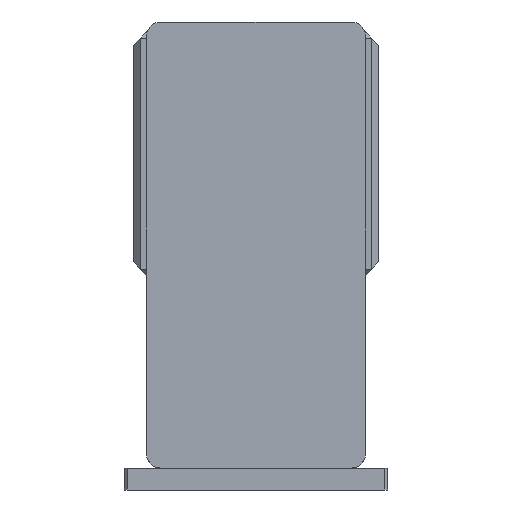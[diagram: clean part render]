
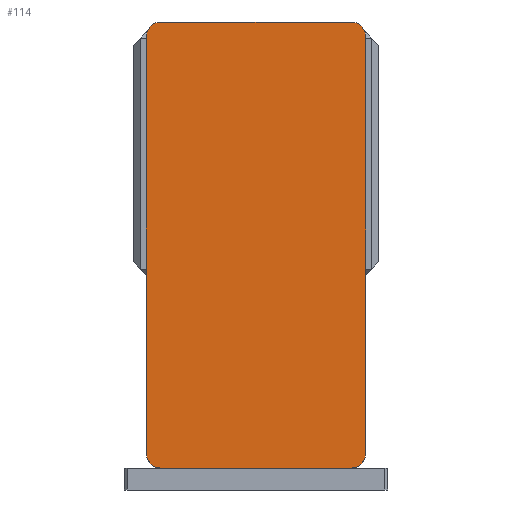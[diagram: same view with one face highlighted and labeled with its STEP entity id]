
A CAD part, left-side view. The second image highlights one B-rep face of the part: STEP entity #114.
In plain terms, the highlighted planar face has unit normal (-1, 0, 0) as drawn and (0, 0, 1) by its records, which use the part's own axes.
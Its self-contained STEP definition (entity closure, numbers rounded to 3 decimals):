
#114 = ADVANCED_FACE ( 'NONE', ( #8588 ), #7084, .T. ) ;
#267 = CARTESIAN_POINT ( 'NONE',  ( 65., 142.5, 105. ) ) ;
#379 = DIRECTION ( 'NONE',  ( -1., 0., 0. ) ) ;
#389 = ORIENTED_EDGE ( 'NONE', *, *, #3264, .T. ) ;
#770 = VERTEX_POINT ( 'NONE', #1549 ) ;
#798 = ORIENTED_EDGE ( 'NONE', *, *, #7708, .T. ) ;
#1008 = AXIS2_PLACEMENT_3D ( 'NONE', #3038, #9034, #3867 ) ;
#1145 = DIRECTION ( 'NONE',  ( 1., 0., 0. ) ) ;
#1463 = ORIENTED_EDGE ( 'NONE', *, *, #3747, .T. ) ;
#1549 = CARTESIAN_POINT ( 'NONE',  ( 75., -142.5, 105. ) ) ;
#1666 = CARTESIAN_POINT ( 'NONE',  ( 65., -152.5, 105. ) ) ;
#1877 = ORIENTED_EDGE ( 'NONE', *, *, #7765, .T. ) ;
#2113 = CIRCLE ( 'NONE', #2794, 10. ) ;
#2341 = VECTOR ( 'NONE', #10895, 1000. ) ;
#2376 = CIRCLE ( 'NONE', #1008, 10. ) ;
#2794 = AXIS2_PLACEMENT_3D ( 'NONE', #267, #6287, #1145 ) ;
#3038 = CARTESIAN_POINT ( 'NONE',  ( -65., -142.5, 105. ) ) ;
#3264 = EDGE_CURVE ( 'NONE', #6192, #6667, #6617, .T. ) ;
#3313 = AXIS2_PLACEMENT_3D ( 'NONE', #9631, #4460, #10443 ) ;
#3347 = EDGE_CURVE ( 'NONE', #3384, #3541, #7586, .T. ) ;
#3384 = VERTEX_POINT ( 'NONE', #4784 ) ;
#3494 = CARTESIAN_POINT ( 'NONE',  ( -75., 152.5, 105. ) ) ;
#3514 = ORIENTED_EDGE ( 'NONE', *, *, #7418, .T. ) ;
#3541 = VERTEX_POINT ( 'NONE', #8185 ) ;
#3562 = LINE ( 'NONE', #7218, #9887 ) ;
#3647 = VERTEX_POINT ( 'NONE', #9818 ) ;
#3662 = DIRECTION ( 'NONE',  ( 1., 0., 0. ) ) ;
#3747 = EDGE_CURVE ( 'NONE', #770, #9717, #3562, .T. ) ;
#3867 = DIRECTION ( 'NONE',  ( 1., 0., 0. ) ) ;
#4010 = VECTOR ( 'NONE', #9525, 1000. ) ;
#4274 = CARTESIAN_POINT ( 'NONE',  ( -75., -142.5, 105. ) ) ;
#4348 = DIRECTION ( 'NONE',  ( 0., 0., 1. ) ) ;
#4460 = DIRECTION ( 'NONE',  ( 0., 0., 1. ) ) ;
#4582 = DIRECTION ( 'NONE',  ( 0., 0., 1. ) ) ;
#4784 = CARTESIAN_POINT ( 'NONE',  ( 65., 152.5, 105. ) ) ;
#4795 = CARTESIAN_POINT ( 'NONE',  ( -75., 142.5, 105. ) ) ;
#4831 = ORIENTED_EDGE ( 'NONE', *, *, #3347, .T. ) ;
#5262 = CARTESIAN_POINT ( 'NONE',  ( -75., -152.5, 105. ) ) ;
#5295 = VECTOR ( 'NONE', #379, 1000. ) ;
#5373 = AXIS2_PLACEMENT_3D ( 'NONE', #7017, #4348, #3662 ) ;
#5770 = VERTEX_POINT ( 'NONE', #1666 ) ;
#6023 = ORIENTED_EDGE ( 'NONE', *, *, #6763, .T. ) ;
#6192 = VERTEX_POINT ( 'NONE', #4795 ) ;
#6287 = DIRECTION ( 'NONE',  ( 0., 0., 1. ) ) ;
#6617 = LINE ( 'NONE', #3494, #2341 ) ;
#6667 = VERTEX_POINT ( 'NONE', #4274 ) ;
#6763 = EDGE_CURVE ( 'NONE', #3647, #5770, #10572, .T. ) ;
#7017 = CARTESIAN_POINT ( 'NONE',  ( 0., 0., 105. ) ) ;
#7084 = PLANE ( 'NONE',  #5373 ) ;
#7218 = CARTESIAN_POINT ( 'NONE',  ( 75., 152.5, 105. ) ) ;
#7332 = DIRECTION ( 'NONE',  ( 0., 1., 0. ) ) ;
#7335 = EDGE_CURVE ( 'NONE', #5770, #770, #7487, .T. ) ;
#7418 = EDGE_CURVE ( 'NONE', #9717, #3384, #2113, .T. ) ;
#7487 = CIRCLE ( 'NONE', #3313, 10. ) ;
#7586 = LINE ( 'NONE', #8898, #5295 ) ;
#7708 = EDGE_CURVE ( 'NONE', #3541, #6192, #10295, .T. ) ;
#7765 = EDGE_CURVE ( 'NONE', #6667, #3647, #2376, .T. ) ;
#8185 = CARTESIAN_POINT ( 'NONE',  ( -65., 152.5, 105. ) ) ;
#8497 = CARTESIAN_POINT ( 'NONE',  ( 75., 142.5, 105. ) ) ;
#8588 = FACE_OUTER_BOUND ( 'NONE', #8859, .T. ) ;
#8859 = EDGE_LOOP ( 'NONE', ( #6023, #8876, #1463, #3514, #4831, #798, #389, #1877 ) ) ;
#8876 = ORIENTED_EDGE ( 'NONE', *, *, #7335, .T. ) ;
#8898 = CARTESIAN_POINT ( 'NONE',  ( -75., 152.5, 105. ) ) ;
#9034 = DIRECTION ( 'NONE',  ( 0., 0., 1. ) ) ;
#9495 = AXIS2_PLACEMENT_3D ( 'NONE', #9760, #4582, #10563 ) ;
#9525 = DIRECTION ( 'NONE',  ( 1., 0., 0. ) ) ;
#9631 = CARTESIAN_POINT ( 'NONE',  ( 65., -142.5, 105. ) ) ;
#9717 = VERTEX_POINT ( 'NONE', #8497 ) ;
#9760 = CARTESIAN_POINT ( 'NONE',  ( -65., 142.5, 105. ) ) ;
#9818 = CARTESIAN_POINT ( 'NONE',  ( -65., -152.5, 105. ) ) ;
#9887 = VECTOR ( 'NONE', #7332, 1000. ) ;
#10295 = CIRCLE ( 'NONE', #9495, 10. ) ;
#10443 = DIRECTION ( 'NONE',  ( 1., 0., 0. ) ) ;
#10563 = DIRECTION ( 'NONE',  ( 1., 0., 0. ) ) ;
#10572 = LINE ( 'NONE', #5262, #4010 ) ;
#10895 = DIRECTION ( 'NONE',  ( 0., -1., 0. ) ) ;
